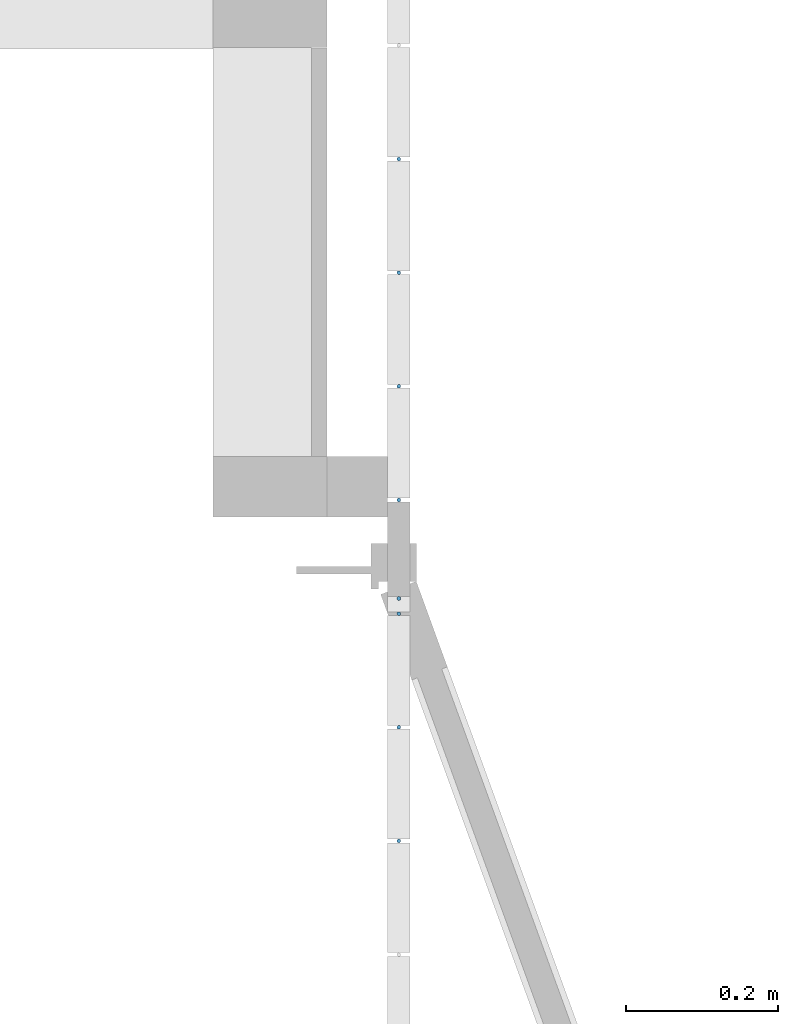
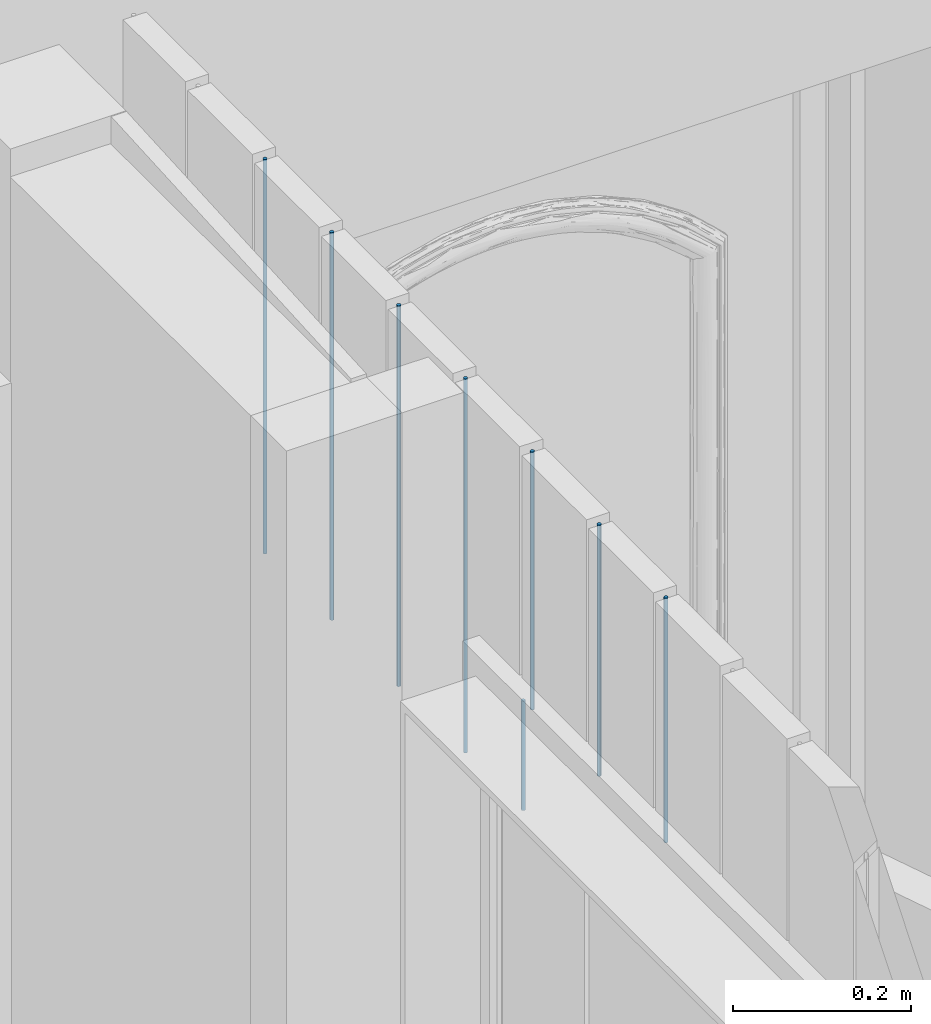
# One storey, part 60 of 81: 8 members, 1 element without a shape of its own.
"""IFC2X3 building model written with IfcOpenShell, lengths in metres."""

import ifcopenshell
import ifcopenshell.guid

model = None  # the IFC model being written
_history = None  # IfcOwnerHistory: only IFC2X3 demands one
_inside = {}  # id of a spatial element -> (the spatial element, [elements in it])
_under = {}  # id of a project, library or spatial element -> (it, [spatial elements below it])
_declared = {}  # id of a project -> (the project, [libraries it declares])
_typed = {}  # id of a type object -> (the type object, [elements of that type])
_made_of = {}  # id of a material, layer set ... -> (it, [elements and type objects made of it])


def new_model(schema):
    """Start an empty IFC model of exactly this schema.

    Asked for "IFC4X3", IfcOpenShell would pick the latest addendum, in which some entities
    have other attributes; the version numbers below select the first issue.
    IFC2X3 requires an IfcOwnerHistory on every rooted entity: one is made here for all.
    """
    global model, _history
    if schema == "IFC4X3":
        model = ifcopenshell.file(schema_version=(4, 3, 0, 0))
    else:
        model = ifcopenshell.file(schema=schema)
    _inside.clear()
    _under.clear()
    _declared.clear()
    _typed.clear()
    _made_of.clear()
    _history = None
    if model.schema == "IFC2X3":
        org = make("IfcOrganization", Name="unknown")
        user = make(
            "IfcPersonAndOrganization",
            ThePerson=make("IfcPerson", FamilyName="unknown"),
            TheOrganization=org,
        )
        app = make(
            "IfcApplication",
            ApplicationDeveloper=org,
            Version="unknown",
            ApplicationFullName="unknown",
            ApplicationIdentifier="unknown",
        )
        _history = make(
            "IfcOwnerHistory",
            OwningUser=user,
            OwningApplication=app,
            ChangeAction="ADDED",
            CreationDate=0,
        )
    return model


def make(cls, **values):
    """One entity of the class cls with the attributes given. An attribute that is None is left unset."""
    return model.create_entity(
        cls, **{name: value for name, value in values.items() if value is not None}
    )


def entity(cls, *values):
    """Any entity or typed value of the class cls, its attributes in the order of the schema. None: left unset."""
    e = model.create_entity(cls)
    for i, value in enumerate(values):
        if value is not None:
            e[i] = value
    return e


def rooted(cls, **values):
    """An entity with a GlobalId (a new one), such as an element, a storey or a relation."""
    return make(cls, GlobalId=ifcopenshell.guid.new(), OwnerHistory=_history, **values)


def si_unit(unit_type, name, prefix=None):
    """IfcSIUnit, for example si_unit("LENGTHUNIT", "METRE", prefix="MILLI")."""
    return make("IfcSIUnit", UnitType=unit_type, Prefix=prefix, Name=name)


def converted_unit(unit_type, name, factor, base, dimensions=None, offset=None):
    """IfcConversionBasedUnit, such as the inch: factor (a typed value) times the base unit."""
    return make(
        "IfcConversionBasedUnit"
        if offset is None
        else "IfcConversionBasedUnitWithOffset",
        ConversionOffset=offset,
        Dimensions=None
        if dimensions is None
        else entity("IfcDimensionalExponents", *dimensions),
        UnitType=unit_type,
        Name=name,
        ConversionFactor=make(
            "IfcMeasureWithUnit", ValueComponent=factor, UnitComponent=base
        ),
    )


def derived_unit(unit_type, elements):
    """IfcDerivedUnit: a product of units, each with its exponent."""
    return make(
        "IfcDerivedUnit",
        Elements=[
            make("IfcDerivedUnitElement", Unit=unit, Exponent=power)
            for unit, power in elements
        ],
        UnitType=unit_type,
    )


def assignment(units):
    """IfcUnitAssignment: the units of a project."""
    return None if units is None else make("IfcUnitAssignment", Units=units)


def point(xyz):
    """IfcCartesianPoint."""
    return None if xyz is None else make("IfcCartesianPoint", Coordinates=xyz)


def direction(xyz):
    """IfcDirection."""
    return None if xyz is None else make("IfcDirection", DirectionRatios=xyz)


def frame(location, z_axis=None, x_axis=None):
    """IfcAxis2Placement3D, a coordinate frame: its origin and axes. An axis left out is left unset."""
    return make(
        "IfcAxis2Placement3D",
        Location=point(location),
        Axis=direction(z_axis),
        RefDirection=direction(x_axis),
    )


def frame_2d(location, x_axis=None):
    """IfcAxis2Placement2D, a coordinate frame in the plane: its origin and x axis."""
    return make(
        "IfcAxis2Placement2D", Location=point(location), RefDirection=direction(x_axis)
    )


def origin():
    """The frame at (0, 0, 0) with its axes left unset."""
    return frame((0.0, 0.0, 0.0))


def place(relative_to, where):
    """IfcLocalPlacement: puts the frame where relative to a parent placement (None: the world)."""
    return make(
        "IfcLocalPlacement", PlacementRelTo=relative_to, RelativePlacement=where
    )


def context(
    kind, dimensions, precision=None, world=None, true_north=None, identifier=None
):
    """IfcGeometricRepresentationContext, for example the 3D "Model" context."""
    return make(
        "IfcGeometricRepresentationContext",
        ContextIdentifier=identifier,
        ContextType=kind,
        CoordinateSpaceDimension=dimensions,
        Precision=precision,
        WorldCoordinateSystem=world,
        TrueNorth=true_north,
    )


def subcontext(parent, identifier, kind, view, scale=None):
    """IfcGeometricRepresentationSubContext, for example "Body" below "Model"."""
    return make(
        "IfcGeometricRepresentationSubContext",
        ContextIdentifier=identifier,
        ContextType=kind,
        ParentContext=parent,
        TargetScale=scale,
        TargetView=view,
    )


def project(units=None, contexts=None):
    """IfcProject with its units and contexts."""
    return rooted(
        "IfcProject",
        Name="project",
        RepresentationContexts=contexts,
        UnitsInContext=assignment(units),
    )


def spatial(cls, under=None, at=None, **own):
    """A site, building, storey or space (cls), placed at a placement, below another one or the project."""
    s = rooted(cls, ObjectPlacement=at, **own)
    if under is not None:
        _under.setdefault(under.id(), (under, []))[1].append(s)
    return s


def profile(cls, at=None, kind="AREA", **sizes):
    """A parametric profile (cls). Its sizes go by their IFC names, for example OverallWidth=200.0."""
    return make(cls, ProfileType=kind, Position=at, **sizes)


def circle(**sizes):
    """IfcCircleProfileDef."""
    return profile("IfcCircleProfileDef", **sizes)


def extrude(swept, where, along, depth):
    """IfcExtrudedAreaSolid: the profile swept, set in the frame where, extruded along a direction by depth."""
    return make(
        "IfcExtrudedAreaSolid",
        SweptArea=swept,
        Position=where,
        ExtrudedDirection=direction(along),
        Depth=depth,
    )


def shape(context_of_items, identifier, shape_type, items):
    """IfcShapeRepresentation: the items that make up one representation, for example the "Body"."""
    return make(
        "IfcShapeRepresentation",
        ContextOfItems=context_of_items,
        RepresentationIdentifier=identifier,
        RepresentationType=shape_type,
        Items=items,
    )


def source(mapping_origin, context_of_items, identifier, shape_type, items):
    """IfcRepresentationMap: a shape defined once, which mapped items show again and again."""
    return make(
        "IfcRepresentationMap",
        MappingOrigin=mapping_origin,
        MappedRepresentation=shape(context_of_items, identifier, shape_type, items),
    )


def transform(
    local_origin,
    x_axis=None,
    y_axis=None,
    z_axis=None,
    scale=None,
    scale2=None,
    scale3=None,
    uniform=True,
):
    """IfcCartesianTransformationOperator3D, or its non-uniform kind. x_axis, y_axis, z_axis: its Axis1, 2, 3."""
    if uniform:
        return make(
            "IfcCartesianTransformationOperator3D",
            Axis1=direction(x_axis),
            Axis2=direction(y_axis),
            LocalOrigin=point(local_origin),
            Scale=scale,
            Axis3=direction(z_axis),
        )
    return make(
        "IfcCartesianTransformationOperator3DnonUniform",
        Axis1=direction(x_axis),
        Axis2=direction(y_axis),
        LocalOrigin=point(local_origin),
        Scale=scale,
        Axis3=direction(z_axis),
        Scale2=scale2,
        Scale3=scale3,
    )


def mapped(mapping_source, mapping_target):
    """IfcMappedItem: shows the shape of a source again, moved by a transform."""
    return make(
        "IfcMappedItem", MappingSource=mapping_source, MappingTarget=mapping_target
    )


def material(Name=None, Category=None):
    """IfcMaterial."""
    return make("IfcMaterial", Name=Name, Category=Category)


def made_of(thing, what):
    """Note that an element or type object is made of a material, layer set ...; save() writes the relation."""
    if what is not None:
        _made_of.setdefault(what.id(), (what, []))[1].append(thing)
    return thing


def type_object(cls, material=None, **own):
    """A type object (cls), such as IfcWallType, which elements share."""
    return made_of(rooted(cls, **own), material)


def type_shapes(of_type, sources):
    """Give a type object the sources (RepresentationMaps) that its elements show as mapped items."""
    of_type.RepresentationMaps = sources


def element(
    cls,
    number,
    at=None,
    inside=None,
    cuts=None,
    type_object=None,
    material=None,
    context=None,
    identifier="Body",
    shape_type=None,
    held_by="IfcProductDefinitionShape",
    body=None,
    shapes=None,
    **own,
):
    """One element of the class cls, such as IfcWall. Its Tag is "e" and its number.

    at: its placement. inside: the storey or other place that contains it. cuts: it is an
    opening in that element (IfcRelVoidsElement). A single representation is given by context,
    identifier, shape_type and body (its items); several are given by shapes. held_by: the class
    of the entity that holds the representations. save() writes the other relations.
    """
    e = rooted(cls, Tag="e%d" % number, ObjectPlacement=at, **own)
    if body is not None:
        shapes = [shape(context, identifier, shape_type, body)]
    if shapes is not None:
        e.Representation = make(held_by, Representations=shapes)
    if inside is not None:
        _inside.setdefault(inside.id(), (inside, []))[1].append(e)
    if cuts is not None:
        rooted(
            "IfcRelVoidsElement", RelatingBuildingElement=cuts, RelatedOpeningElement=e
        )
    if type_object is not None:
        _typed.setdefault(type_object.id(), (type_object, []))[1].append(e)
    return made_of(e, material)


def aggregate(whole, parts):
    """IfcRelAggregates: a whole, such as a stair, and the parts it consists of."""
    return rooted("IfcRelAggregates", RelatingObject=whole, RelatedObjects=parts)


def save(model, path):
    """Write the relations noted so far, then the file.

    IfcRelAggregates (storeys below a building ...), IfcRelContainedInSpatialStructure (elements
    in a storey), IfcRelDefinesByType, IfcRelAssociatesMaterial and IfcRelDeclares: one each for
    every whole, place, type object, material and project.
    """
    for whole, parts in _under.values():
        aggregate(whole, parts)
    for where, things in _inside.values():
        rooted(
            "IfcRelContainedInSpatialStructure",
            RelatedElements=things,
            RelatingStructure=where,
        )
    for kind, things in _typed.values():
        rooted("IfcRelDefinesByType", RelatedObjects=things, RelatingType=kind)
    for what, things in _made_of.values():
        rooted("IfcRelAssociatesMaterial", RelatedObjects=things, RelatingMaterial=what)
    for by, libraries in _declared.values():
        rooted("IfcRelDeclares", RelatingContext=by, RelatedDefinitions=libraries)
    model.write(path)


model = new_model("IFC2X3")

# Units and contexts
model_context = context("Model", 3, precision=1e-05, world=origin(), true_north=direction((6.12303176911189e-17, 1.0)))
body_context = subcontext(model_context, "Body", "Model", "MODEL_VIEW")
ifc_project = project(units=[si_unit("LENGTHUNIT", "METRE"), si_unit("AREAUNIT", "SQUARE_METRE"), si_unit("VOLUMEUNIT", "CUBIC_METRE"), converted_unit("PLANEANGLEUNIT", "DEGREE", entity("IfcRatioMeasure", 0.0174532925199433), si_unit("PLANEANGLEUNIT", "RADIAN"), dimensions=[0, 0, 0, 0, 0, 0, 0]), si_unit("MASSUNIT", "GRAM", prefix="KILO"), derived_unit("MASSDENSITYUNIT", [(si_unit("MASSUNIT", "GRAM", prefix="KILO"), 1), (si_unit("LENGTHUNIT", "METRE"), -3)]), derived_unit("MOMENTOFINERTIAUNIT", [(si_unit("LENGTHUNIT", "METRE"), 4)]), si_unit("TIMEUNIT", "SECOND"), si_unit("FREQUENCYUNIT", "HERTZ"), si_unit("THERMODYNAMICTEMPERATUREUNIT", "DEGREE_CELSIUS"), derived_unit("THERMALTRANSMITTANCEUNIT", [(si_unit("MASSUNIT", "GRAM", prefix="KILO"), 1), (si_unit("THERMODYNAMICTEMPERATUREUNIT", "KELVIN"), -1), (si_unit("TIMEUNIT", "SECOND"), -3)]), derived_unit("VOLUMETRICFLOWRATEUNIT", [(si_unit("LENGTHUNIT", "METRE"), 3), (si_unit("TIMEUNIT", "SECOND"), -1)]), si_unit("ELECTRICCURRENTUNIT", "AMPERE"), si_unit("ELECTRICVOLTAGEUNIT", "VOLT"), si_unit("POWERUNIT", "WATT"), si_unit("FORCEUNIT", "NEWTON", prefix="KILO"), si_unit("ILLUMINANCEUNIT", "LUX"), si_unit("LUMINOUSFLUXUNIT", "LUMEN"), si_unit("LUMINOUSINTENSITYUNIT", "CANDELA"), derived_unit("USERDEFINED", [(si_unit("MASSUNIT", "GRAM", prefix="KILO"), -1), (si_unit("LENGTHUNIT", "METRE"), -2), (si_unit("TIMEUNIT", "SECOND"), 3), (si_unit("LUMINOUSFLUXUNIT", "LUMEN"), 1)]), derived_unit("LINEARVELOCITYUNIT", [(si_unit("LENGTHUNIT", "METRE"), 1), (si_unit("TIMEUNIT", "SECOND"), -1)]), si_unit("PRESSUREUNIT", "PASCAL"), derived_unit("USERDEFINED", [(si_unit("LENGTHUNIT", "METRE"), -2), (si_unit("MASSUNIT", "GRAM", prefix="KILO"), 1), (si_unit("TIMEUNIT", "SECOND"), -2)]), derived_unit("LINEARFORCEUNIT", [(si_unit("MASSUNIT", "GRAM", prefix="KILO"), 1), (si_unit("LENGTHUNIT", "METRE"), 1), (si_unit("TIMEUNIT", "SECOND"), -2), (si_unit("LENGTHUNIT", "METRE"), -1)]), derived_unit("PLANARFORCEUNIT", [(si_unit("MASSUNIT", "GRAM", prefix="KILO"), 1), (si_unit("LENGTHUNIT", "METRE"), 1), (si_unit("TIMEUNIT", "SECOND"), -2), (si_unit("LENGTHUNIT", "METRE"), -2)])], contexts=[model_context])

# Site, building, storey
site_placement = place(None, origin())
site = spatial("IfcSite", under=ifc_project, at=site_placement, Name="Surface", CompositionType="ELEMENT")
building_placement = place(site_placement, origin())
building = spatial("IfcBuilding", under=site, at=building_placement, CompositionType="ELEMENT")
storey_placement = place(building_placement, origin())
storey = spatial("IfcBuildingStorey", under=building, at=storey_placement, Name="01 RDC", CompositionType="ELEMENT", Elevation=-1.94916083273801e-14)

# Curtain wall, members
curtain_wall_type = type_object("IfcCurtainWallType", Name="Mur-rideau:1m x 2m", PredefinedType="NOTDEFINED")
curtain_wall_placement = place(storey_placement, origin())
curtain_wall = element("IfcCurtainWall", 1, at=curtain_wall_placement, inside=storey, type_object=curtain_wall_type, Name="Mur-rideau:1m x 2m", ObjectType="Mur-rideau:1m x 2m")
ifc_material = material(Name="Aluminium - Vert")
member_type_1 = type_object("IfcMemberType", Name="Meneau circulaire:R-30 mm", PredefinedType="MULLION", material=ifc_material)
shared_shape_1 = source(origin(), body_context, "Body", "SweptSolid", [
    extrude(circle(Radius=0.0025, at=frame_2d((-1.30499213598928e-32, 4.03886143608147e-18), x_axis=(1.0, 0.0))), frame((0.0, 0.0, -0.54028187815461), z_axis=(0.0, 0.0, 1.0), x_axis=(-1.0, 0.0, 0.0)), (0.0, 0.0, 1.0), 0.54028187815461),
])
type_shapes(member_type_1, [shared_shape_1])
member_1_placement = place(storey_placement, frame((8.02156158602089, -3.99346095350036, 2.0), z_axis=(0.0, 0.0, -1.0), x_axis=(0.0, -1.0, 0.0)))
member_1 = element("IfcMember", 2, at=member_1_placement, type_object=member_type_1, material=ifc_material, Name="Meneau circulaire:R-30 mm", ObjectType="Meneau circulaire:R-30 mm", context=body_context, shape_type="MappedRepresentation", body=[
    mapped(shared_shape_1, transform((0.0, 0.0, 0.0), scale=1.0)),
])
member_type_2 = type_object("IfcMemberType", Name="Meneau circulaire:R-30 mm", PredefinedType="MULLION", material=ifc_material)
shared_shape_2 = source(origin(), body_context, "Body", "SweptSolid", [
    extrude(circle(Radius=0.0025, at=frame_2d((-1.30499213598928e-32, 4.03886143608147e-18), x_axis=(1.0, 0.0))), frame((0.0, 0.0, -0.353584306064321), z_axis=(0.0, 0.0, 1.0), x_axis=(-1.0, 0.0, 0.0)), (0.0, 0.0, 1.0), 0.353584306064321),
])
type_shapes(member_type_2, [shared_shape_2])
member_2_placement = place(storey_placement, frame((8.02156158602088, -4.59346095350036, 2.15), z_axis=(0.0, 0.0, -1.0), x_axis=(0.0, -1.0, 0.0)))
member_2 = element("IfcMember", 3, at=member_2_placement, type_object=member_type_2, material=ifc_material, Name="Meneau circulaire:R-30 mm", ObjectType="Meneau circulaire:R-30 mm", context=body_context, shape_type="MappedRepresentation", body=[
    mapped(shared_shape_2, transform((0.0, 0.0, 0.0), scale=1.0)),
])
member_type_3 = type_object("IfcMemberType", Name="Meneau circulaire:R-30 mm", PredefinedType="MULLION", material=ifc_material)
shared_shape_3 = source(origin(), body_context, "Body", "SweptSolid", [
    extrude(circle(Radius=0.0025, at=frame_2d((-1.30499213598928e-32, 4.03886143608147e-18), x_axis=(1.0, 0.0))), frame((0.0, 0.0, -0.344409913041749), z_axis=(0.0, 0.0, 1.0), x_axis=(-1.0, 0.0, 0.0)), (0.0, 0.0, 1.0), 0.344409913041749),
])
type_shapes(member_type_3, [shared_shape_3])
member_3_placement = place(storey_placement, frame((8.02156158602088, -4.74346095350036, 2.15), z_axis=(0.0, 0.0, -1.0), x_axis=(0.0, -1.0, 0.0)))
member_3 = element("IfcMember", 4, at=member_3_placement, type_object=member_type_3, material=ifc_material, Name="Meneau circulaire:R-30 mm", ObjectType="Meneau circulaire:R-30 mm", context=body_context, shape_type="MappedRepresentation", body=[
    mapped(shared_shape_3, transform((0.0, 0.0, 0.0), scale=1.0)),
])
member_type_4 = type_object("IfcMemberType", Name="Meneau circulaire:R-30 mm", PredefinedType="MULLION", material=ifc_material)
shared_shape_4 = source(origin(), body_context, "Body", "SweptSolid", [
    extrude(circle(Radius=0.0025, at=frame_2d((-1.30499213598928e-32, 4.03886143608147e-18), x_axis=(1.0, 0.0))), frame((0.0, 0.0, -0.335235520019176), z_axis=(0.0, 0.0, 1.0), x_axis=(-1.0, 0.0, 0.0)), (0.0, 0.0, 1.0), 0.335235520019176),
])
type_shapes(member_type_4, [shared_shape_4])
member_4_placement = place(storey_placement, frame((8.02156158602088, -4.89346095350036, 2.15), z_axis=(0.0, 0.0, -1.0), x_axis=(0.0, -1.0, 0.0)))
member_4 = element("IfcMember", 5, at=member_4_placement, type_object=member_type_4, material=ifc_material, Name="Meneau circulaire:R-30 mm", ObjectType="Meneau circulaire:R-30 mm", context=body_context, shape_type="MappedRepresentation", body=[
    mapped(shared_shape_4, transform((0.0, 0.0, 0.0), scale=1.0)),
])
member_type_5 = type_object("IfcMemberType", Name="Meneau circulaire:R-30 mm", PredefinedType="MULLION", material=ifc_material)
shared_shape_5 = source(origin(), body_context, "Body", "SweptSolid", [
    extrude(circle(Radius=0.0025, at=frame_2d((-1.30499213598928e-32, 4.03886143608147e-18), x_axis=(1.0, 0.0))), frame((0.0, 0.0, -0.531107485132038), z_axis=(0.0, 0.0, 1.0), x_axis=(-1.0, 0.0, 0.0)), (0.0, 0.0, 1.0), 0.531107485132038),
])
type_shapes(member_type_5, [shared_shape_5])
member_5_placement = place(storey_placement, frame((8.02156158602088, -4.14346095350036, 2.0), z_axis=(0.0, 0.0, -1.0), x_axis=(0.0, -1.0, 0.0)))
member_5 = element("IfcMember", 6, at=member_5_placement, type_object=member_type_5, material=ifc_material, Name="Meneau circulaire:R-30 mm", ObjectType="Meneau circulaire:R-30 mm", context=body_context, shape_type="MappedRepresentation", body=[
    mapped(shared_shape_5, transform((0.0, 0.0, 0.0), scale=1.0)),
])
member_type_6 = type_object("IfcMemberType", Name="Meneau circulaire:R-30 mm", PredefinedType="MULLION", material=ifc_material)
shared_shape_6 = source(origin(), body_context, "Body", "SweptSolid", [
    extrude(circle(Radius=0.0025, at=frame_2d((-1.30499213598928e-32, 4.03886143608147e-18), x_axis=(1.0, 0.0))), frame((0.0, 0.0, -0.521933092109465), z_axis=(0.0, 0.0, 1.0), x_axis=(-1.0, 0.0, 0.0)), (0.0, 0.0, 1.0), 0.521933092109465),
])
type_shapes(member_type_6, [shared_shape_6])
member_6_placement = place(storey_placement, frame((8.02156158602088, -4.29346095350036, 2.0), z_axis=(0.0, 0.0, -1.0), x_axis=(0.0, -1.0, 0.0)))
member_6 = element("IfcMember", 7, at=member_6_placement, type_object=member_type_6, material=ifc_material, Name="Meneau circulaire:R-30 mm", ObjectType="Meneau circulaire:R-30 mm", context=body_context, shape_type="MappedRepresentation", body=[
    mapped(shared_shape_6, transform((0.0, 0.0, 0.0), scale=1.0)),
])
member_type_7 = type_object("IfcMemberType", Name="Meneau circulaire:R-30 mm", PredefinedType="MULLION", material=ifc_material)
shared_shape_7 = source(origin(), body_context, "Body", "SweptSolid", [
    extrude(circle(Radius=0.0025, at=frame_2d((-1.30499213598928e-32, 4.03886143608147e-18), x_axis=(1.0, 0.0))), frame((0.0, 0.0, -0.512758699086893), z_axis=(0.0, 0.0, 1.0), x_axis=(-1.0, 0.0, 0.0)), (0.0, 0.0, 1.0), 0.512758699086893),
])
type_shapes(member_type_7, [shared_shape_7])
member_7_placement = place(storey_placement, frame((8.02156158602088, -4.44346095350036, 2.0), z_axis=(0.0, 0.0, -1.0), x_axis=(0.0, -1.0, 0.0)))
member_7 = element("IfcMember", 8, at=member_7_placement, type_object=member_type_7, material=ifc_material, Name="Meneau circulaire:R-30 mm", ObjectType="Meneau circulaire:R-30 mm", context=body_context, shape_type="MappedRepresentation", body=[
    mapped(shared_shape_7, transform((0.0, 0.0, 0.0), scale=1.0)),
])
member_type_8 = type_object("IfcMemberType", Name="Meneau circulaire:R-30 mm", PredefinedType="MULLION", material=ifc_material)
shared_shape_8 = source(origin(), body_context, "Body", "SweptSolid", [
    extrude(circle(Radius=0.0025, at=frame_2d((-1.17965647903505e-32, 3.7744895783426e-18), x_axis=(1.0, 0.0))), frame((-0.0025, 0.0, -0.149999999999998), z_axis=(0.0, 0.0, 1.0), x_axis=(-1.0, 0.0, 0.0)), (0.0, 0.0, 1.0), 0.149999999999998),
])
type_shapes(member_type_8, [shared_shape_8])
member_8_placement = place(storey_placement, frame((8.02156158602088, -4.57596095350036, 2.0), z_axis=(0.0, 0.0, -1.0), x_axis=(0.0, -1.0, 0.0)))
member_8 = element("IfcMember", 9, at=member_8_placement, type_object=member_type_8, material=ifc_material, Name="Meneau circulaire:R-30 mm", ObjectType="Meneau circulaire:R-30 mm", context=body_context, shape_type="MappedRepresentation", body=[
    mapped(shared_shape_8, transform((0.0, 0.0, 0.0), scale=1.0)),
])
aggregate(curtain_wall, [member_1, member_2, member_3, member_4, member_5, member_6, member_7, member_8])

save(model, "model.ifc")
